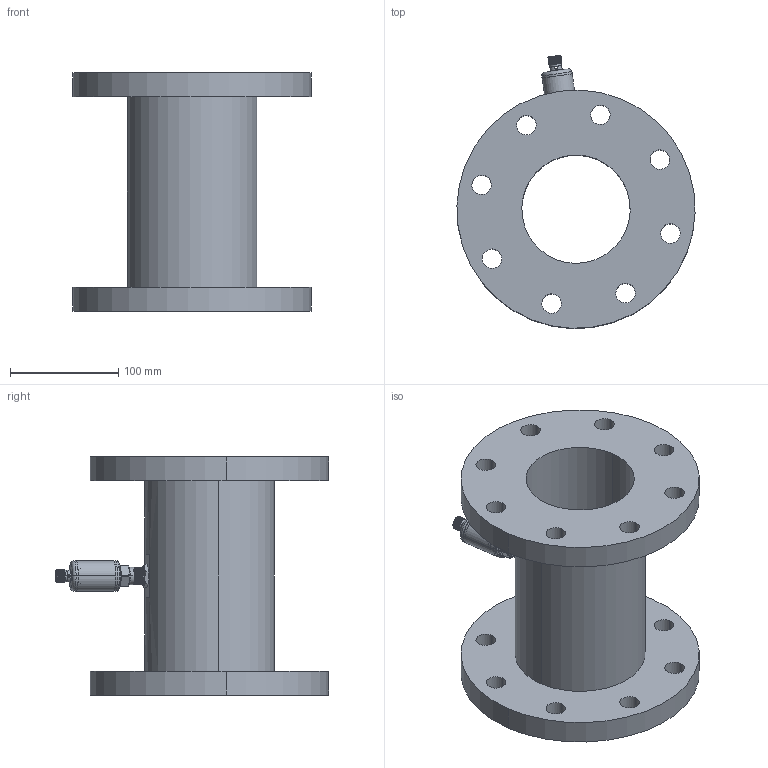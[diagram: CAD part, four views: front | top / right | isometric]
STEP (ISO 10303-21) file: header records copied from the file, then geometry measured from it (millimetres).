
FILE_DESCRIPTION (( 'STEP AP214' ), '1' );
FILE_NAME ('BFW1C100-J.STEP', '2026-01-20T06:18:27', ( '' ), ( '' ), 'SwSTEP 2.0', 'SolidWorks 2023', '' );
FILE_SCHEMA (( 'AUTOMOTIVE_DESIGN' ));
Length unit declared in the file: millimetre
Products named in the file (8): 壳体; M16螺母; 探头; 压力变送器; 垫片; 连接管; BFW1C100-J; DN100法兰-华东
Assembly tree (7 placements, depth 3):
  BFW1C100-J
    压力变送器
      壳体
      垫片
      连接管
      探头
    M16螺母
    DN100法兰-华东
Bounding box: 219.87 x 252.16 x 220 mm (x, y, z)
Volume: 1855622.4 mm3; surface area: 309418.7 mm2
Topology: 6 solids, 6 shells, 267 faces, 688 edges, 447 vertices
Faces by surface type: cylinder 160, plane 47, cone 46, torus 8, bspline 6
Entity records: 12578 total; most frequent: CARTESIAN_POINT 6037, ORIENTED_EDGE 1376, DIRECTION 1282, EDGE_CURVE 688, AXIS2_PLACEMENT_3D 522, VERTEX_POINT 447, EDGE_LOOP 333, FACE_OUTER_BOUND 267
